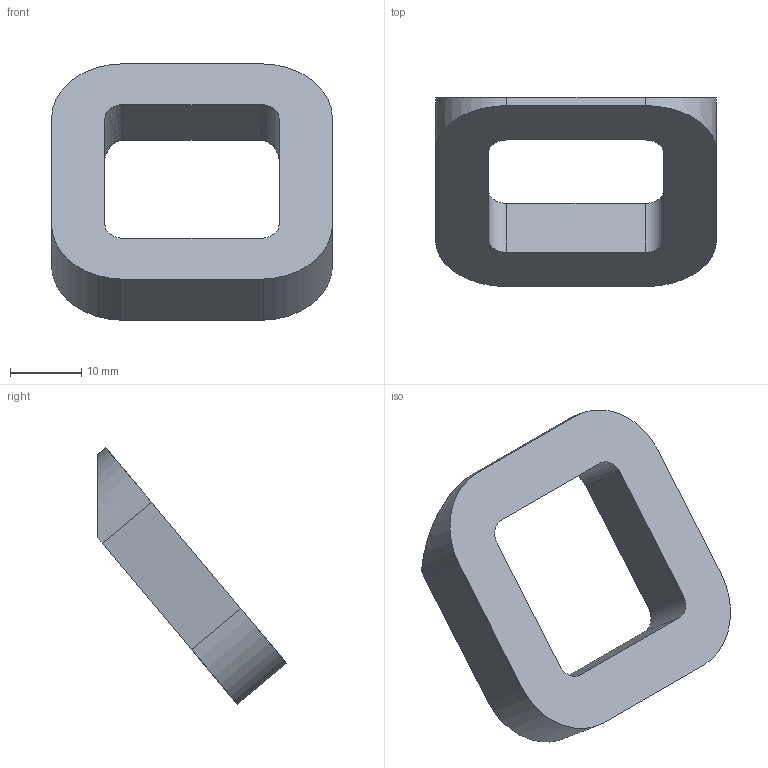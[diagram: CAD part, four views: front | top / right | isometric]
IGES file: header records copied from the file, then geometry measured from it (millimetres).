
Start section: Data from Parasolid IGES Translator 15.0.47, Copyright(c) 2006 Siemens P LM Software. All Rights Reserved.
Global section: file name: 9207446.igs; native system:  By UGS Corp.; preprocessor: XPlus GENERIC/IGES 3.0; author: Noname; organization: Noname; date: 20160303.183137; units: millimetre
Bounding box: 39.5 x 26.54 x 36.04 mm (x, y, z)
Surface area: 3815.5 mm2 (no closed solid volume)
Topology: 0 solids, 0 shells, 23 faces, 120 edges, 116 vertices
Faces by surface type: extrusion 13, revolution 10
